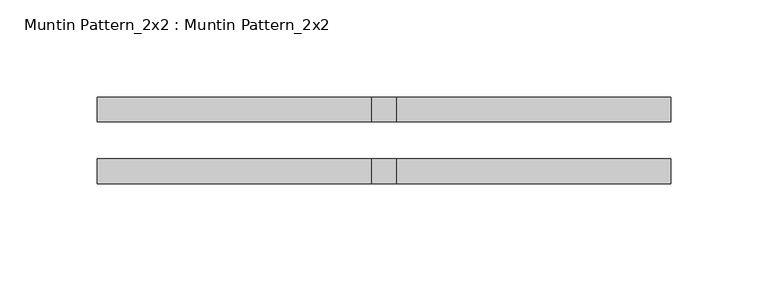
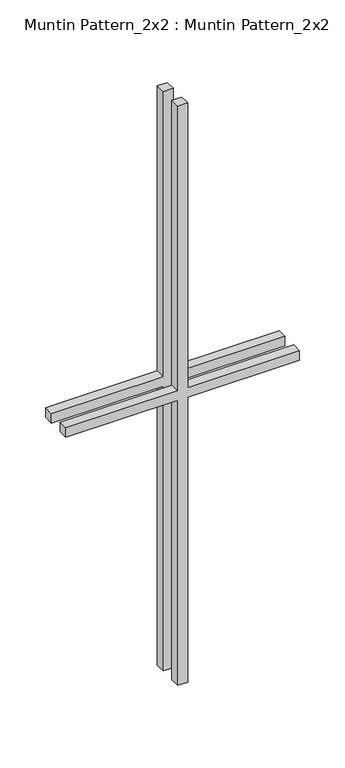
"""IFC4 building model written with IfcOpenShell, lengths in millimetres: proxy geometry, Muntin Pattern_2x2 : Muntin Pattern_2x2."""

import ifcopenshell
import ifcopenshell.guid

model = None  # the IFC model being written
_history = None  # IfcOwnerHistory: only IFC2X3 demands one
_inside = {}  # id of a spatial element -> (the spatial element, [elements in it])
_under = {}  # id of a project, library or spatial element -> (it, [spatial elements below it])
_declared = {}  # id of a project -> (the project, [libraries it declares])
_typed = {}  # id of a type object -> (the type object, [elements of that type])
_made_of = {}  # id of a material, layer set ... -> (it, [elements and type objects made of it])


def new_model(schema):
    """Start an empty IFC model of exactly this schema.

    Asked for "IFC4X3", IfcOpenShell would pick the latest addendum, in which some entities
    have other attributes; the version numbers below select the first issue.
    IFC2X3 requires an IfcOwnerHistory on every rooted entity: one is made here for all.
    """
    global model, _history
    if schema == "IFC4X3":
        model = ifcopenshell.file(schema_version=(4, 3, 0, 0))
    else:
        model = ifcopenshell.file(schema=schema)
    _inside.clear()
    _under.clear()
    _declared.clear()
    _typed.clear()
    _made_of.clear()
    _history = None
    if model.schema == "IFC2X3":
        org = make("IfcOrganization", Name="unknown")
        user = make(
            "IfcPersonAndOrganization",
            ThePerson=make("IfcPerson", FamilyName="unknown"),
            TheOrganization=org,
        )
        app = make(
            "IfcApplication",
            ApplicationDeveloper=org,
            Version="unknown",
            ApplicationFullName="unknown",
            ApplicationIdentifier="unknown",
        )
        _history = make(
            "IfcOwnerHistory",
            OwningUser=user,
            OwningApplication=app,
            ChangeAction="ADDED",
            CreationDate=0,
        )
    return model


def make(cls, **values):
    """One entity of the class cls with the attributes given. An attribute that is None is left unset."""
    return model.create_entity(
        cls, **{name: value for name, value in values.items() if value is not None}
    )


def rooted(cls, **values):
    """An entity with a GlobalId (a new one), such as an element, a storey or a relation."""
    return make(cls, GlobalId=ifcopenshell.guid.new(), OwnerHistory=_history, **values)


def si_unit(unit_type, name, prefix=None):
    """IfcSIUnit, for example si_unit("LENGTHUNIT", "METRE", prefix="MILLI")."""
    return make("IfcSIUnit", UnitType=unit_type, Prefix=prefix, Name=name)


def assignment(units):
    """IfcUnitAssignment: the units of a project."""
    return None if units is None else make("IfcUnitAssignment", Units=units)


def point(xyz):
    """IfcCartesianPoint."""
    return None if xyz is None else make("IfcCartesianPoint", Coordinates=xyz)


def direction(xyz):
    """IfcDirection."""
    return None if xyz is None else make("IfcDirection", DirectionRatios=xyz)


def frame(location, z_axis=None, x_axis=None):
    """IfcAxis2Placement3D, a coordinate frame: its origin and axes. An axis left out is left unset."""
    return make(
        "IfcAxis2Placement3D",
        Location=point(location),
        Axis=direction(z_axis),
        RefDirection=direction(x_axis),
    )


def origin():
    """The frame at (0, 0, 0) with its axes left unset."""
    return frame((0.0, 0.0, 0.0))


def place(relative_to, where):
    """IfcLocalPlacement: puts the frame where relative to a parent placement (None: the world)."""
    return make(
        "IfcLocalPlacement", PlacementRelTo=relative_to, RelativePlacement=where
    )


def context(
    kind, dimensions, precision=None, world=None, true_north=None, identifier=None
):
    """IfcGeometricRepresentationContext, for example the 3D "Model" context."""
    return make(
        "IfcGeometricRepresentationContext",
        ContextIdentifier=identifier,
        ContextType=kind,
        CoordinateSpaceDimension=dimensions,
        Precision=precision,
        WorldCoordinateSystem=world,
        TrueNorth=true_north,
    )


def project(units=None, contexts=None):
    """IfcProject with its units and contexts."""
    return rooted(
        "IfcProject",
        Name="project",
        RepresentationContexts=contexts,
        UnitsInContext=assignment(units),
    )


def spatial(cls, under=None, at=None, **own):
    """A site, building, storey or space (cls), placed at a placement, below another one or the project."""
    s = rooted(cls, ObjectPlacement=at, **own)
    if under is not None:
        _under.setdefault(under.id(), (under, []))[1].append(s)
    return s


def polyline(points):
    """IfcPolyline through the points."""
    return make("IfcPolyline", Points=[point(p) for p in points])


def outline(outer, holes=None, kind="AREA"):
    """IfcArbitraryClosedProfileDef: a profile drawn as a closed curve; with holes, ...WithVoids."""
    if holes is None:
        return make("IfcArbitraryClosedProfileDef", ProfileType=kind, OuterCurve=outer)
    return make(
        "IfcArbitraryProfileDefWithVoids",
        ProfileType=kind,
        OuterCurve=outer,
        InnerCurves=holes,
    )


def extrude(swept, where, along, depth):
    """IfcExtrudedAreaSolid: the profile swept, set in the frame where, extruded along a direction by depth."""
    return make(
        "IfcExtrudedAreaSolid",
        SweptArea=swept,
        Position=where,
        ExtrudedDirection=direction(along),
        Depth=depth,
    )


def shape(context_of_items, identifier, shape_type, items):
    """IfcShapeRepresentation: the items that make up one representation, for example the "Body"."""
    return make(
        "IfcShapeRepresentation",
        ContextOfItems=context_of_items,
        RepresentationIdentifier=identifier,
        RepresentationType=shape_type,
        Items=items,
    )


def source(mapping_origin, context_of_items, identifier, shape_type, items):
    """IfcRepresentationMap: a shape defined once, which mapped items show again and again."""
    return make(
        "IfcRepresentationMap",
        MappingOrigin=mapping_origin,
        MappedRepresentation=shape(context_of_items, identifier, shape_type, items),
    )


def transform(
    local_origin,
    x_axis=None,
    y_axis=None,
    z_axis=None,
    scale=None,
    scale2=None,
    scale3=None,
    uniform=True,
):
    """IfcCartesianTransformationOperator3D, or its non-uniform kind. x_axis, y_axis, z_axis: its Axis1, 2, 3."""
    if uniform:
        return make(
            "IfcCartesianTransformationOperator3D",
            Axis1=direction(x_axis),
            Axis2=direction(y_axis),
            LocalOrigin=point(local_origin),
            Scale=scale,
            Axis3=direction(z_axis),
        )
    return make(
        "IfcCartesianTransformationOperator3DnonUniform",
        Axis1=direction(x_axis),
        Axis2=direction(y_axis),
        LocalOrigin=point(local_origin),
        Scale=scale,
        Axis3=direction(z_axis),
        Scale2=scale2,
        Scale3=scale3,
    )


def mapped(mapping_source, mapping_target):
    """IfcMappedItem: shows the shape of a source again, moved by a transform."""
    return make(
        "IfcMappedItem", MappingSource=mapping_source, MappingTarget=mapping_target
    )


def made_of(thing, what):
    """Note that an element or type object is made of a material, layer set ...; save() writes the relation."""
    if what is not None:
        _made_of.setdefault(what.id(), (what, []))[1].append(thing)
    return thing


def element(
    cls,
    number,
    at=None,
    inside=None,
    cuts=None,
    type_object=None,
    material=None,
    context=None,
    identifier="Body",
    shape_type=None,
    held_by="IfcProductDefinitionShape",
    body=None,
    shapes=None,
    **own,
):
    """One element of the class cls, such as IfcWall. Its Tag is "e" and its number.

    at: its placement. inside: the storey or other place that contains it. cuts: it is an
    opening in that element (IfcRelVoidsElement). A single representation is given by context,
    identifier, shape_type and body (its items); several are given by shapes. held_by: the class
    of the entity that holds the representations. save() writes the other relations.
    """
    e = rooted(cls, Tag="e%d" % number, ObjectPlacement=at, **own)
    if body is not None:
        shapes = [shape(context, identifier, shape_type, body)]
    if shapes is not None:
        e.Representation = make(held_by, Representations=shapes)
    if inside is not None:
        _inside.setdefault(inside.id(), (inside, []))[1].append(e)
    if cuts is not None:
        rooted(
            "IfcRelVoidsElement", RelatingBuildingElement=cuts, RelatedOpeningElement=e
        )
    if type_object is not None:
        _typed.setdefault(type_object.id(), (type_object, []))[1].append(e)
    return made_of(e, material)


def aggregate(whole, parts):
    """IfcRelAggregates: a whole, such as a stair, and the parts it consists of."""
    return rooted("IfcRelAggregates", RelatingObject=whole, RelatedObjects=parts)


def save(model, path):
    """Write the relations noted so far, then the file.

    IfcRelAggregates (storeys below a building ...), IfcRelContainedInSpatialStructure (elements
    in a storey), IfcRelDefinesByType, IfcRelAssociatesMaterial and IfcRelDeclares: one each for
    every whole, place, type object, material and project.
    """
    for whole, parts in _under.values():
        aggregate(whole, parts)
    for where, things in _inside.values():
        rooted(
            "IfcRelContainedInSpatialStructure",
            RelatedElements=things,
            RelatingStructure=where,
        )
    for kind, things in _typed.values():
        rooted("IfcRelDefinesByType", RelatedObjects=things, RelatingType=kind)
    for what, things in _made_of.values():
        rooted("IfcRelAssociatesMaterial", RelatedObjects=things, RelatingMaterial=what)
    for by, libraries in _declared.values():
        rooted("IfcRelDeclares", RelatingContext=by, RelatedDefinitions=libraries)
    model.write(path)


def muntin_pattern_2x2_muntin_pattern_2x2_3e0ecaf2(model_context):
    return source(origin(), model_context, "Body", "SweptSolid", [
        extrude(outline(polyline([(393.7, -6.35), (393.7, -147.6375), (381.0, -147.6375), (381.0, -6.35), (0.0, -6.35), (0.0, 6.35), (381.0, 6.35), (381.0, 147.6375), (393.7, 147.6375), (393.7, 6.35), (774.7, 6.35), (774.7, -6.35), (393.7, -6.35)])), frame((0.0, -22.225, 0.0), z_axis=(0.0, 1.0, 0.0), x_axis=(0.0, 0.0, 1.0)), (0.0, 0.0, 1.0), 12.7),
        extrude(outline(polyline([(393.7, -6.35), (393.7, -147.6375), (381.0, -147.6375), (381.0, -6.35), (0.0, -6.35), (0.0, 6.35), (381.0, 6.35), (381.0, 147.6375), (393.7, 147.6375), (393.7, 6.35), (774.7, 6.35), (774.7, -6.35), (393.7, -6.35)])), frame((0.0, 9.525, 0.0), z_axis=(0.0, 1.0, 0.0), x_axis=(0.0, 0.0, 1.0)), (0.0, 0.0, 1.0), 12.7),
    ])


if __name__ == "__main__":
    model = new_model("IFC4")
    model_context = context("Model", 3, world=origin())
    ifc_project = project(units=[si_unit("LENGTHUNIT", "METRE", prefix="MILLI")], contexts=[model_context])
    site = spatial("IfcSite", under=ifc_project)
    building = spatial("IfcBuilding", under=site)
    placement = place(None, origin())
    muntin_pattern_2x2_muntin_pattern_2x2_shape = muntin_pattern_2x2_muntin_pattern_2x2_3e0ecaf2(model_context)
    element("IfcBuildingElementProxy", 1, Name="Muntin Pattern_2x2 : Muntin Pattern_2x2", ObjectType="Muntin Pattern_2x2 : Muntin Pattern_2x2", at=placement, inside=building, context=model_context, shape_type="MappedRepresentation", body=[
        mapped(muntin_pattern_2x2_muntin_pattern_2x2_shape, transform((0.0, 0.0, 0.0), x_axis=(1.0, 0.0, 0.0), y_axis=(0.0, 1.0, 0.0), z_axis=(0.0, 0.0, 1.0))),
    ])
    save(model, "model.ifc")
